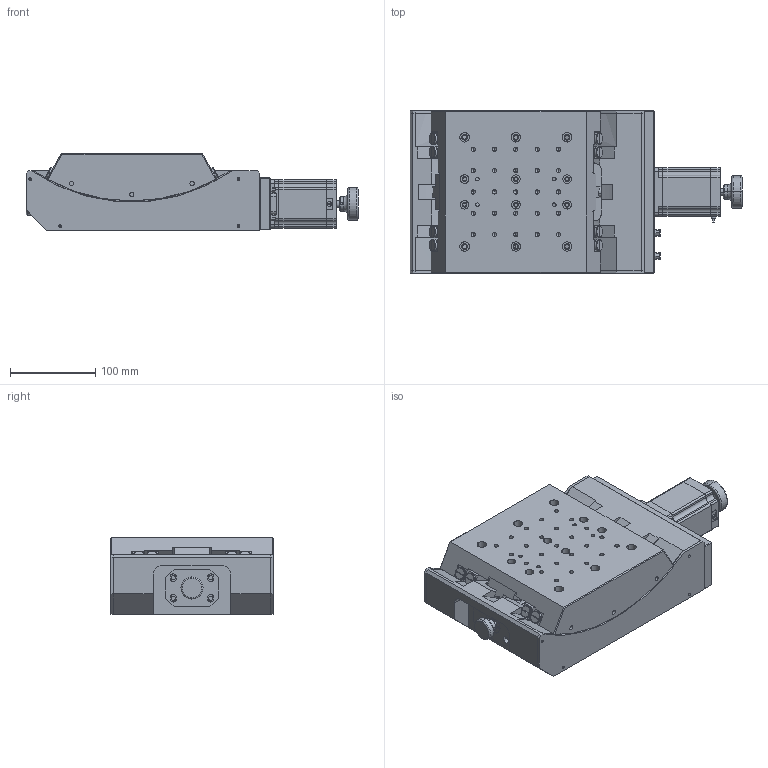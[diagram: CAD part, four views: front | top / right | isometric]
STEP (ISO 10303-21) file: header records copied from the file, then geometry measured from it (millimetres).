
FILE_DESCRIPTION (( 'STEP AP203' ), '1' );
FILE_NAME ('电动角位台：ZG-BHEG2303-0.STEP', '2023-08-10T02:41:35', ( 'Sky123.Org' ), ( 'Sky123.Org' ), 'SwSTEP 2.0', 'SolidWorks 2016', '' );
FILE_SCHEMA (( 'CONFIG_CONTROL_DESIGN' ));
Length unit declared in the file: millimetre
Products named in the file (1): 电动角位台：ZG-BHEG2303-0
Bounding box: 389 x 190 x 90 mm (x, y, z)
Surface area: 602345.7 mm2 (no closed solid volume)
Topology: 0 solids, 53 shells, 3053 faces, 8152 edges, 5322 vertices
Faces by surface type: cylinder 1295, plane 1008, bspline 328, cone 282, torus 140
Entity records: 154938 total; most frequent: CARTESIAN_POINT 82616, ORIENTED_EDGE 16040, DIRECTION 13363, EDGE_CURVE 8034, VERTEX_POINT 5322, AXIS2_PLACEMENT_3D 5152, EDGE_LOOP 3586, LINE 3059
